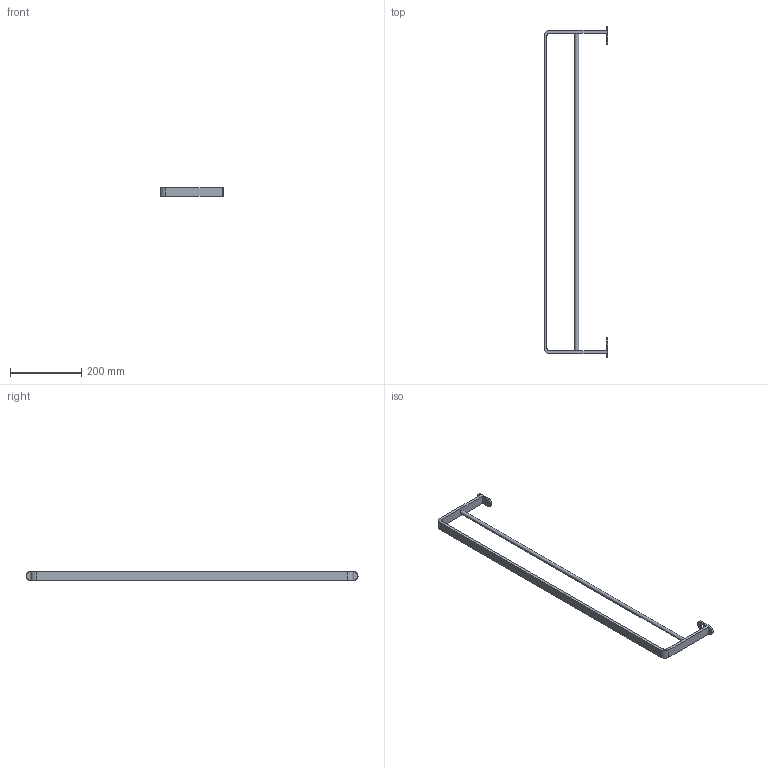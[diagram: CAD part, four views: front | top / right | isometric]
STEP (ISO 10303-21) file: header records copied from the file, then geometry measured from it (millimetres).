
FILE_DESCRIPTION (( 'STEP AP203' ), '1' );
FILE_NAME ('Rundstångsräcke 180 avslut.STEP', '2014-09-26T06:38:18', ( '' ), ( '' ), 'SwSTEP 2.0', 'SolidWorks 2014', '' );
FILE_SCHEMA (( 'CONFIG_CONTROL_DESIGN' ));
Length unit declared in the file: millimetre
Products named in the file (1): Rundst幩gsr踄ke 180 avslut
Bounding box: 180 x 935 x 25 mm (x, y, z)
Volume: 342947.8 mm3; surface area: 118037.4 mm2
Topology: 1 solids, 1 shells, 30 faces, 80 edges, 52 vertices
Faces by surface type: plane 16, cylinder 14
Entity records: 1029 total; most frequent: DIRECTION 170, CARTESIAN_POINT 163, ORIENTED_EDGE 160, EDGE_CURVE 80, AXIS2_PLACEMENT_3D 59, VECTOR 52, LINE 52, VERTEX_POINT 52
